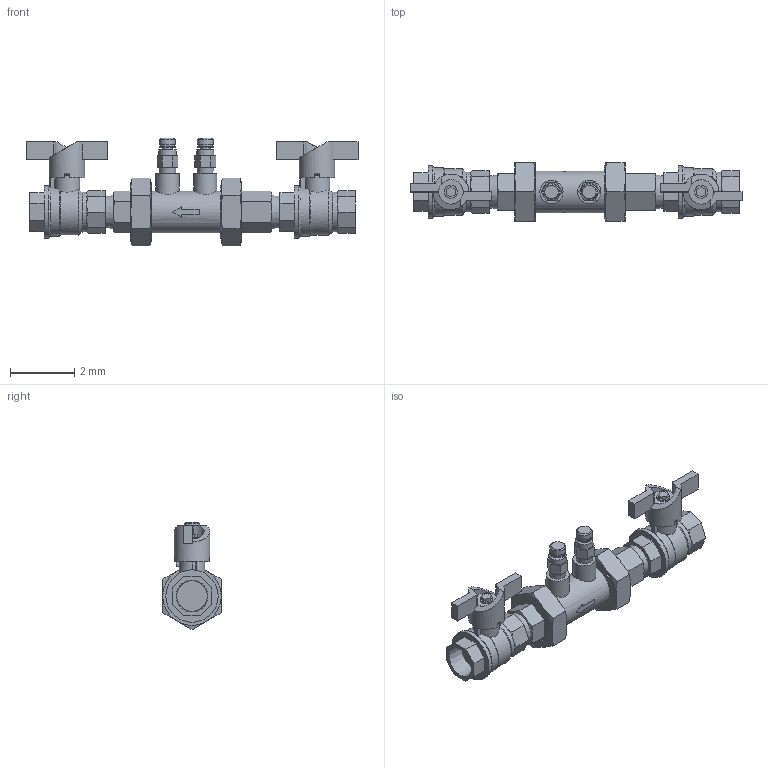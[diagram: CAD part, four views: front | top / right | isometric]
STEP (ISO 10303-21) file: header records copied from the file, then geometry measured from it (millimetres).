
FILE_DESCRIPTION(('Open CASCADE Model'),'2;1');
FILE_NAME('Open CASCADE Shape Model','2021-09-29T15:27:44',('Author'),( 'Open CASCADE'),'Open CASCADE STEP processor 7.3','Open CASCADE 7.3' ,'Unknown');
FILE_SCHEMA(('AUTOMOTIVE_DESIGN { 1 0 10303 214 1 1 1 1 }'));
Length unit declared in the file: millimetre
Products named in the file (13): Open CASCADE STEP translator 7.3 1; Open CASCADE STEP translator 7.3 1.1; Open CASCADE STEP translator 7.3 1.2; Open CASCADE STEP translator 7.3 1.2.1; Open CASCADE STEP translator 7.3 1.2.2; Open CASCADE STEP translator 7.3 1.2.3; Open CASCADE STEP translator 7.3 1.2.4; Open CASCADE STEP translator 7.3 1.2.5; Open CASCADE STEP translator 7.3 1.2.6; Open CASCADE STEP translator 7.3 1.2.7; Open CASCADE STEP translator 7.3 1.2.8; Open CASCADE STEP translator 7.3 1.2.9; Open CASCADE STEP translator 7.3 1.2.10
Assembly tree (12 placements, depth 3):
  Open CASCADE STEP translator 7.3 1
    Open CASCADE STEP translator 7.3 1.1
    Open CASCADE STEP translator 7.3 1.2
      Open CASCADE STEP translator 7.3 1.2.1
      Open CASCADE STEP translator 7.3 1.2.2
      Open CASCADE STEP translator 7.3 1.2.3
      Open CASCADE STEP translator 7.3 1.2.4
      Open CASCADE STEP translator 7.3 1.2.5
      Open CASCADE STEP translator 7.3 1.2.6
      Open CASCADE STEP translator 7.3 1.2.7
      Open CASCADE STEP translator 7.3 1.2.8
      Open CASCADE STEP translator 7.3 1.2.9
      Open CASCADE STEP translator 7.3 1.2.10
Bounding box: 10.31 x 1.81 x 3.34 mm (x, y, z)
Volume: 13.3 mm3; surface area: 129.3 mm2
Topology: 2 solids, 22 shells, 589 faces, 1413 edges, 917 vertices
Faces by surface type: plane 342, cone 117, cylinder 109, torus 13, sphere 4, bspline 4
Full cylindrical faces by diameter (mm): 0.1 x2, 0.15 x2, 0.165 x2, 0.175 x2, 0.2 x1, 0.205 x1, 0.255 x1, 0.3 x2, 0.33 x4, 0.385 x2, 0.4 x2, 0.44 x2, 0.49 x4, 0.5 x1, 0.538 x2, 0.545 x1, 0.578 x2, 0.595 x1, 0.66 x2, 0.72 x2, 0.765 x1, 0.77 x2, 0.787 x1, 0.791 x3, 0.811 x1, 0.863 x2, 1.05 x1, 1.11 x2, 1.136 x1, 1.229 x4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
Entity records: 43412 total; most frequent: CARTESIAN_POINT 16182, DIRECTION 4875, ORIENTED_EDGE 2792, PCURVE 2792, DEFINITIONAL_REPRESENTATION 2792, LINE 2508, VECTOR 2508, EDGE_CURVE 1411
